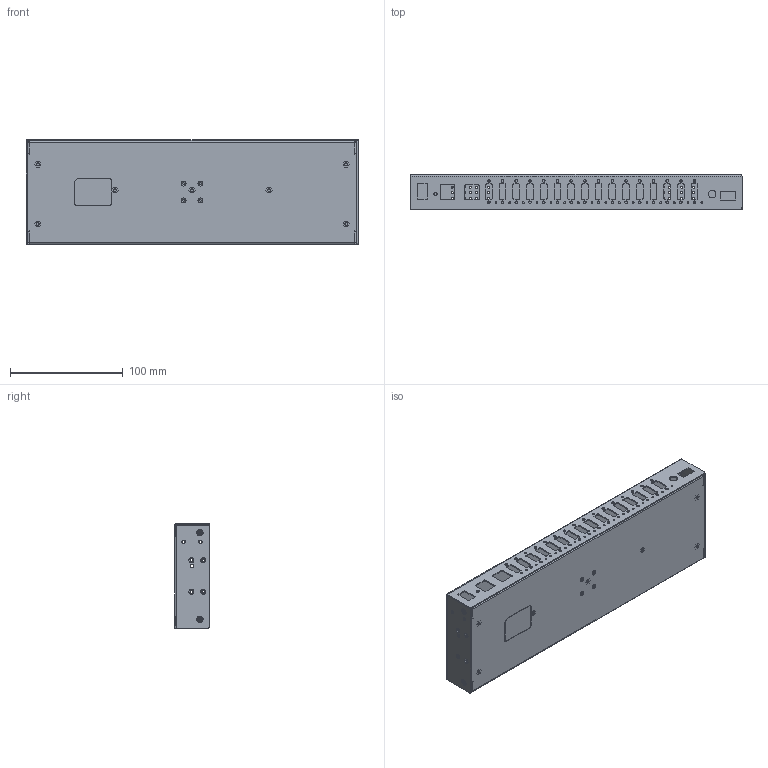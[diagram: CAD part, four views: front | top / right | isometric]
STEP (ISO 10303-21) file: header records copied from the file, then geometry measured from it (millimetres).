
FILE_DESCRIPTION((''),'2;1');
FILE_NAME('HT1-H2A16L_ASM','2025-08-18T10:36:12',('Administrator'),(''),'CREO PARAMETRIC BY PTC INC, 2022164','CREO PARAMETRIC BY PTC INC, 2022164','');
FILE_SCHEMA(('CONFIG_CONTROL_DESIGN','SHAPE_APPEARANCE_LAYERS_GROUPS'));
Length unit declared in the file: millimetre
Products named in the file (4): HT1H2A16L-TOP-BK; HT1H2A16L-BOT-BK; FM3X3_8CCRO-A; HT1-H2A16L_ASM
Assembly tree (6 placements, depth 2):
  HT1-H2A16L_ASM
    HT1H2A16L-TOP-BK
    HT1H2A16L-BOT-BK
    FM3X3_8CCRO-A  x4
Bounding box: 295 x 31 x 93 mm (x, y, z)
Volume: 78573.7 mm3; surface area: 161781.8 mm2
Topology: 17 solids, 23 shells, 974 faces, 2548 edges, 1628 vertices
Faces by surface type: cylinder 529, plane 349, bspline 44, torus 32, cone 20
Entity records: 40411 total; most frequent: CARTESIAN_POINT 7143, DIRECTION 5095, ORIENTED_EDGE 4586, PRESENTATION_STYLE_ASSIGNMENT 2723, STYLED_ITEM 2688, CURVE_STYLE 2305, EDGE_CURVE 2305, AXIS2_PLACEMENT_3D 1958
